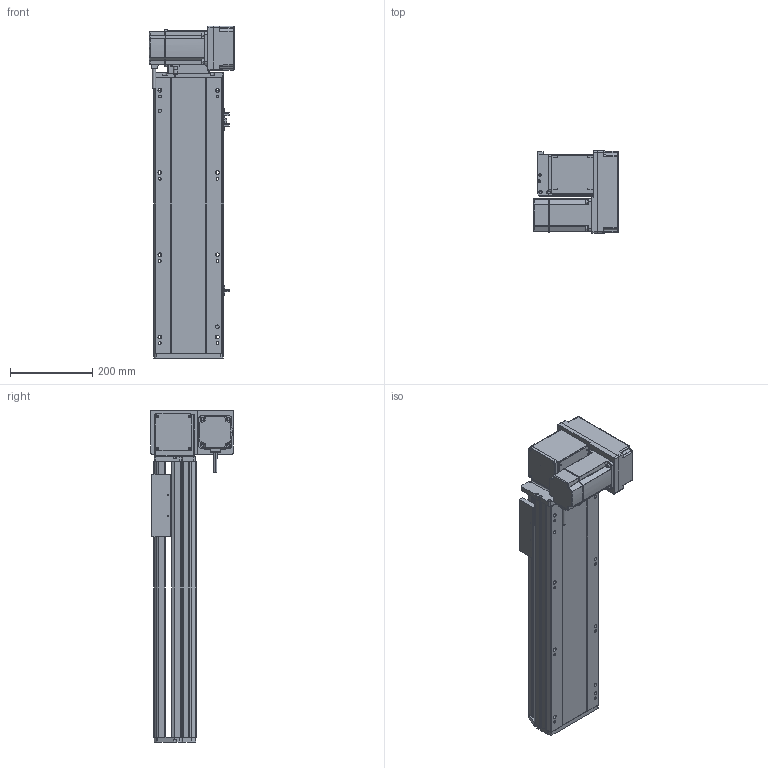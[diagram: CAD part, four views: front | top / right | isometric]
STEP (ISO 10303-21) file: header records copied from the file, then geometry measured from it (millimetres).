
FILE_DESCRIPTION (( 'STEP AP214' ), '1' );
FILE_NAME ('RTB17S-XX-400-RM-M75-C4.STEP', '2025-12-12T02:01:43', ( '' ), ( '' ), 'SwSTEP 2.0', 'SolidWorks 2018', '' );
FILE_SCHEMA (( 'AUTOMOTIVE_DESIGN' ));
Length unit declared in the file: millimetre
Products named in the file (15): RTB17S-L-014-T20-P75--々湍釱^RTB17S-RM-々湍釱蚾饜-750W_RTB17S-XX-XX-RM-M75-C4; EE672^RTB17S-XX-XX-RM-M75-C4; RTB17S-RM-々湍釱蚾饜-750W^RTB17S-XX-XX-RM-M75-C4; 750W萇儂^RTB17S-XX-XX-RM-M75-C4; RTB17S-L-004-賑釱^RTB17S-賑釱_RTB17S-XX-XX-RM-M75-C4; RTB22S-GY-008-M75--萇儂啣^RTB17S-RM-々湍釱蚾饜-750W_RTB17S-XX-XX-RM-M75-C4; RTB17S-賑釱^RTB17S-XX-XX-RM-M75-C4; RTH13-BL-012覜茼え俋离^RTB17S-賑釱_RTB17S-XX-XX-RM-M75-C4; RTB22S-GY-017P^RTB17S-RM-々湍釱蚾饜-750W_RTB17S-XX-XX-RM-M75-C4; RTB17S-XX-400-RM-M75-C4; RTB17S-L-007奻裔^RTB17S-XX-XX-RM-M75-C4; RTB17S-L-001-耜醱啣^RTB17S-XX-XX-RM-M75-C4; RTB22S-GY-018P^RTB17S-RM-々湍釱蚾饜-750W_RTB17S-XX-XX-RM-M75-C4; RTB17-R-011菁釱^RTB17S-XX-XX-RM-M75-C4; RTB22S-GY-005P^RTB17S-RM-々湍釱蚾饜-750W_RTB17S-XX-XX-RM-M75-C4
Assembly tree (17 placements, depth 3):
  RTB17S-XX-400-RM-M75-C4
    RTB17-R-011菁釱^RTB17S-XX-XX-RM-M75-C4
    EE672^RTB17S-XX-XX-RM-M75-C4  x3
    RTB17S-L-001-耜醱啣^RTB17S-XX-XX-RM-M75-C4
    RTB17S-賑釱^RTB17S-XX-XX-RM-M75-C4
      RTB17S-L-004-賑釱^RTB17S-賑釱_RTB17S-XX-XX-RM-M75-C4
      RTH13-BL-012覜茼え俋离^RTB17S-賑釱_RTB17S-XX-XX-RM-M75-C4
    RTB17S-L-007奻裔^RTB17S-XX-XX-RM-M75-C4
    750W萇儂^RTB17S-XX-XX-RM-M75-C4
    RTB17S-RM-々湍釱蚾饜-750W^RTB17S-XX-XX-RM-M75-C4
      RTB17S-L-014-T20-P75--々湍釱^RTB17S-RM-々湍釱蚾饜-750W_RTB17S-XX-XX-RM-M75-C4
      RTB22S-GY-005P^RTB17S-RM-々湍釱蚾饜-750W_RTB17S-XX-XX-RM-M75-C4
      RTB22S-GY-017P^RTB17S-RM-々湍釱蚾饜-750W_RTB17S-XX-XX-RM-M75-C4  x2
      RTB22S-GY-008-M75--萇儂啣^RTB17S-RM-々湍釱蚾饜-750W_RTB17S-XX-XX-RM-M75-C4
      RTB22S-GY-018P^RTB17S-RM-々湍釱蚾饜-750W_RTB17S-XX-XX-RM-M75-C4
Bounding box: 207.4 x 200 x 807.5 mm (x, y, z)
Volume: 8453064.9 mm3; surface area: 1333022.2 mm2
Topology: 17 solids, 17 shells, 2041 faces, 5620 edges, 3626 vertices
Faces by surface type: plane 964, cylinder 661, bspline 294, cone 110, sphere 8, torus 4
Entity records: 55798 total; most frequent: CARTESIAN_POINT 16284, ORIENTED_EDGE 8084, DIRECTION 7592, EDGE_CURVE 4042, AXIS2_PLACEMENT_3D 2646, VERTEX_POINT 2630, VECTOR 2300, LINE 2300
